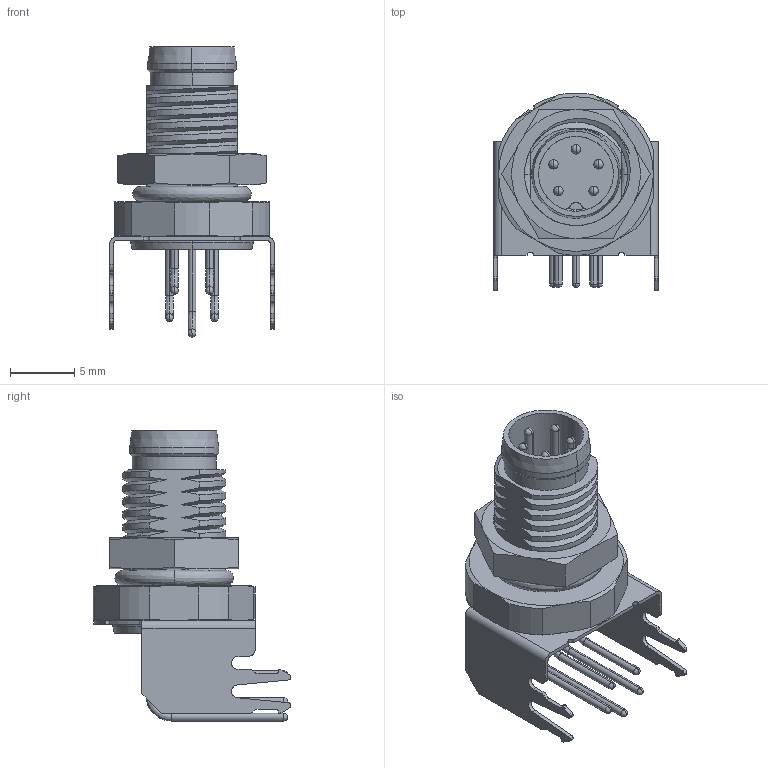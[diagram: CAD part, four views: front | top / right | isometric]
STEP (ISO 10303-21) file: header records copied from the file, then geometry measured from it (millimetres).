
FILE_DESCRIPTION (( 'STEP AP203' ), '1' );
FILE_NAME ('857-005-113R004.STEP', '2025-08-20T15:38:19', ( '' ), ( '' ), 'SwSTEP 2.0', 'SolidWorks 2020', '' );
FILE_SCHEMA (( 'CONFIG_CONTROL_DESIGN' ));
Length unit declared in the file: millimetre
Products named in the file (1): 857-005-113R004
Bounding box: 12.8 x 15.33 x 22.5 mm (x, y, z)
Volume: 790.5 mm3; surface area: 1891.8 mm2
Topology: 1 solids, 1 shells, 412 faces, 1134 edges, 707 vertices
Faces by surface type: cylinder 164, plane 110, bspline 99, cone 39
Entity records: 21911 total; most frequent: CARTESIAN_POINT 12960, ORIENTED_EDGE 2186, DIRECTION 1273, EDGE_CURVE 1093, VERTEX_POINT 707, B_SPLINE_CURVE_WITH_KNOTS 575, EDGE_LOOP 450, AXIS2_PLACEMENT_3D 443
